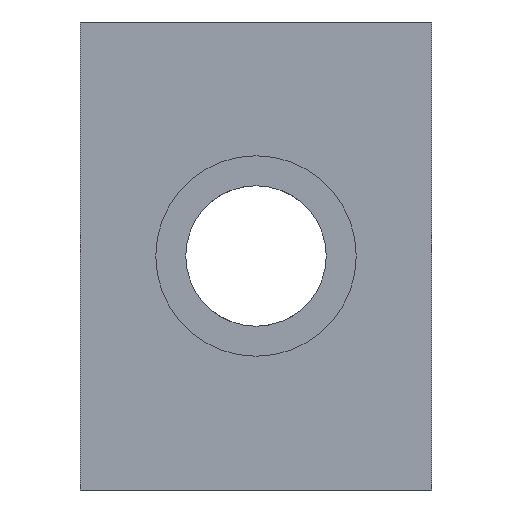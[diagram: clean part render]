
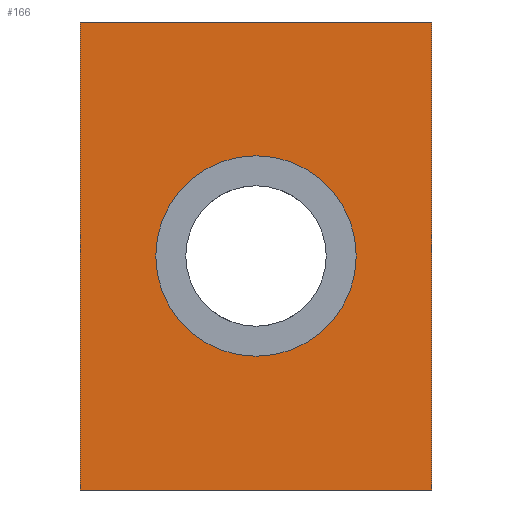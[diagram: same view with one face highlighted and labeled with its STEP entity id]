
A CAD part, left-side view. The second image highlights one B-rep face of the part: STEP entity #166.
In plain terms, the highlighted planar face has unit normal (-1, 0, 0).
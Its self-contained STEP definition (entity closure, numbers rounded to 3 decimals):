
#166 = ADVANCED_FACE( '', ( #272, #273 ), #274, .F. );
#272 = FACE_BOUND( '', #351, .T. );
#273 = FACE_OUTER_BOUND( '', #352, .T. );
#274 = PLANE( '', #353 );
#289 = EDGE_CURVE( '', #375, #375, #376, .T. );
#351 = EDGE_LOOP( '', ( #483 ) );
#352 = EDGE_LOOP( '', ( #484, #485, #486, #487 ) );
#353 = AXIS2_PLACEMENT_3D( '', #488, #489, #490 );
#375 = VERTEX_POINT( '', #667 );
#376 = CIRCLE( '', #668, 4.283 );
#483 = ORIENTED_EDGE( '', *, *, #289, .T. );
#484 = ORIENTED_EDGE( '', *, *, #969, .T. );
#485 = ORIENTED_EDGE( '', *, *, #962, .F. );
#486 = ORIENTED_EDGE( '', *, *, #956, .F. );
#487 = ORIENTED_EDGE( '', *, *, #971, .T. );
#488 = CARTESIAN_POINT( '', ( -37.5, 15., -10. ) );
#489 = DIRECTION( '', ( 1., 0., 0. ) );
#490 = DIRECTION( '', ( 0., 0., -1. ) );
#667 = CARTESIAN_POINT( '', ( -37.5, 7.5, 4.283 ) );
#668 = AXIS2_PLACEMENT_3D( '', #984, #985, #986 );
#956 = EDGE_CURVE( '', #1012, #1013, #1014, .T. );
#962 = EDGE_CURVE( '', #1013, #1020, #1024, .T. );
#969 = EDGE_CURVE( '', #1036, #1020, #1037, .T. );
#971 = EDGE_CURVE( '', #1012, #1036, #1039, .T. );
#984 = CARTESIAN_POINT( '', ( -37.5, 7.5, 0. ) );
#985 = DIRECTION( '', ( 1., 0., 0. ) );
#986 = DIRECTION( '', ( 0., 0., 1. ) );
#1012 = VERTEX_POINT( '', #1044 );
#1013 = VERTEX_POINT( '', #1045 );
#1014 = LINE( '', #1046, #1047 );
#1020 = VERTEX_POINT( '', #1056 );
#1024 = LINE( '', #1062, #1063 );
#1036 = VERTEX_POINT( '', #1077 );
#1037 = LINE( '', #1078, #1079 );
#1039 = LINE( '', #1082, #1083 );
#1044 = CARTESIAN_POINT( '', ( -37.5, 15., -10. ) );
#1045 = CARTESIAN_POINT( '', ( -37.5, 15., 10. ) );
#1046 = CARTESIAN_POINT( '', ( -37.5, 15., -10. ) );
#1047 = VECTOR( '', #1090, 1000. );
#1056 = CARTESIAN_POINT( '', ( -37.5, 0., 10. ) );
#1062 = CARTESIAN_POINT( '', ( -37.5, 15., 10. ) );
#1063 = VECTOR( '', #1096, 1000. );
#1077 = CARTESIAN_POINT( '', ( -37.5, 0., -10. ) );
#1078 = CARTESIAN_POINT( '', ( -37.5, 0., -10. ) );
#1079 = VECTOR( '', #1111, 1000. );
#1082 = CARTESIAN_POINT( '', ( -37.5, 15., -10. ) );
#1083 = VECTOR( '', #1113, 1000. );
#1090 = DIRECTION( '', ( 0., 0., 1. ) );
#1096 = DIRECTION( '', ( 0., -1., 0. ) );
#1111 = DIRECTION( '', ( 0., 0., 1. ) );
#1113 = DIRECTION( '', ( 0., -1., 0. ) );
